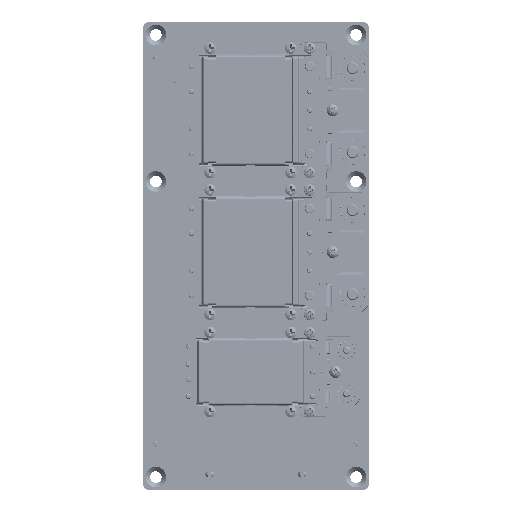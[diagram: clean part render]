
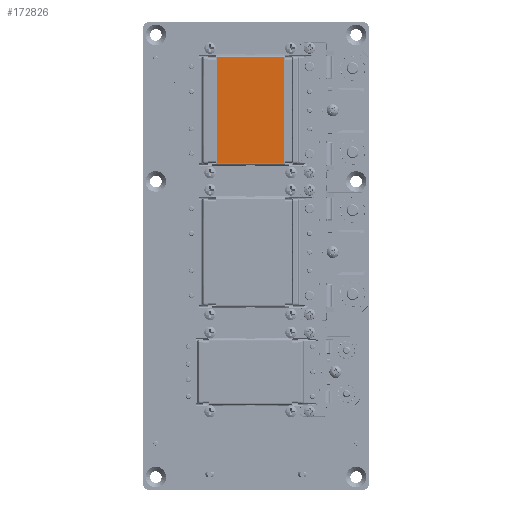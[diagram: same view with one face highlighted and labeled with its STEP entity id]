
A CAD part, top view. The second image highlights one B-rep face of the part: STEP entity #172826.
In plain terms, the highlighted planar face has unit normal (0, 0, 1).
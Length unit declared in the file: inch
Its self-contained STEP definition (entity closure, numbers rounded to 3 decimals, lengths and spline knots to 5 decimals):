
#48392 = EDGE_CURVE ( 'NONE', #54991, #54988, #290895, .T. ) ;
#48395 = EDGE_CURVE ( 'NONE', #54988, #54989, #290897, .T. ) ;
#48398 = EDGE_CURVE ( 'NONE', #54993, #54991, #290901, .T. ) ;
#48400 = EDGE_CURVE ( 'NONE', #54989, #54993, #290902, .T. ) ;
#54988 = VERTEX_POINT ( 'NONE', #360388 ) ;
#54989 = VERTEX_POINT ( 'NONE', #360390 ) ;
#54991 = VERTEX_POINT ( 'NONE', #360393 ) ;
#54993 = VERTEX_POINT ( 'NONE', #360396 ) ;
#61048 = ORIENTED_EDGE ( 'NONE', *, *, #48395, .F. ) ;
#61050 = ORIENTED_EDGE ( 'NONE', *, *, #48398, .F. ) ;
#61051 = ORIENTED_EDGE ( 'NONE', *, *, #48392, .F. ) ;
#61052 = ORIENTED_EDGE ( 'NONE', *, *, #48400, .F. ) ;
#172826 = ADVANCED_FACE ( 'NONE', ( #392036 ), #386576, .T. ) ;
#180290 = VECTOR ( 'NONE', #329355, 39.37008 ) ;
#180296 = VECTOR ( 'NONE', #329359, 39.37008 ) ;
#180301 = VECTOR ( 'NONE', #329364, 39.37008 ) ;
#180306 = VECTOR ( 'NONE', #329369, 39.37008 ) ;
#266374 = EDGE_LOOP ( 'NONE', ( #61048, #61051, #61050, #61052 ) ) ;
#290895 = LINE ( 'NONE', #329353, #180290 ) ;
#290897 = LINE ( 'NONE', #329358, #180296 ) ;
#290901 = LINE ( 'NONE', #329362, #180301 ) ;
#290902 = LINE ( 'NONE', #329367, #180306 ) ;
#329353 = CARTESIAN_POINT ( 'NONE',  ( -1.36353, 1.49655, 0.72245 ) ) ;
#329355 = DIRECTION ( 'NONE',  ( 0., -1., 0. ) ) ;
#329358 = CARTESIAN_POINT ( 'NONE',  ( -2.45179, 1.4953, 0.72245 ) ) ;
#329359 = DIRECTION ( 'NONE',  ( -1., 0., 0. ) ) ;
#329362 = CARTESIAN_POINT ( 'NONE',  ( -1.34849, 3.2004, 0.72245 ) ) ;
#329364 = DIRECTION ( 'NONE',  ( 1., 0., 0. ) ) ;
#329367 = CARTESIAN_POINT ( 'NONE',  ( -2.43674, 3.19916, 0.72245 ) ) ;
#329369 = DIRECTION ( 'NONE',  ( 0., 1., 0. ) ) ;
#360388 = CARTESIAN_POINT ( 'NONE',  ( -1.36353, 1.4953, 0.72245 ) ) ;
#360390 = CARTESIAN_POINT ( 'NONE',  ( -2.43674, 1.4953, 0.72245 ) ) ;
#360393 = CARTESIAN_POINT ( 'NONE',  ( -1.36353, 3.2004, 0.72245 ) ) ;
#360396 = CARTESIAN_POINT ( 'NONE',  ( -2.43674, 3.2004, 0.72245 ) ) ;
#386576 = PLANE ( 'NONE',  #409822 ) ;
#386578 = CARTESIAN_POINT ( 'NONE',  ( -2.40405, 1.56626, 0.72245 ) ) ;
#386581 = DIRECTION ( 'NONE',  ( 0., 0., 1. ) ) ;
#386584 = DIRECTION ( 'NONE',  ( 1., 0., 0. ) ) ;
#392036 = FACE_OUTER_BOUND ( 'NONE', #266374, .T. ) ;
#409822 = AXIS2_PLACEMENT_3D ( 'NONE', #386578, #386581, #386584 ) ;
